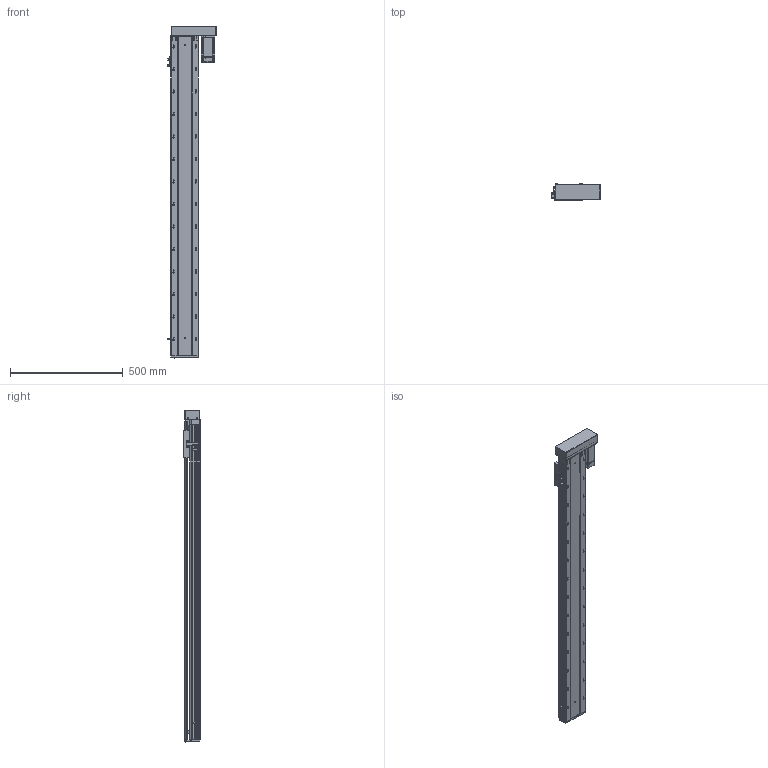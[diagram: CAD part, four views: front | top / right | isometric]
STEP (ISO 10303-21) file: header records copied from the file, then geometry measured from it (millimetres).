
FILE_DESCRIPTION (( 'STEP AP203' ), '1' );
FILE_NAME ('RY120-L2020-1000-RK.SLDASM_1200.step', '2021-03-12T07:30:04', ( '盈信电脑' ), ( '东莞市道滘镇水果街19号' ), 'SwSTEP 2.0', 'SolidWorks 2012', '' );
FILE_SCHEMA (( 'CONFIG_CONTROL_DESIGN' ));
Products named in the file (15): RY120-L2020-1000-RK.SLDASM_1200; RY120-400W萇儂傷-酘衵殏_450; RY120蛌殏萇儂欶; 15; 侂狟400W侜督萇儂; RY120酘殏萇儂假蚾啣; 滅袉蝶18-24; RY120外置感应片(140共用）; RY120转拆电端丝杆支撑座(20丝杆，7002轴承); RY120綴裔啣; 滅袉蝶18-10; 覜茼ん672; RY120臏賑輸(20蹟譫); RY120-1000-RK蛌殏倰第菁釱_1200; RY120-1000-RK蛌殏倰第奻裔啣_1200
Assembly tree (17 placements, depth 4):
  RY120-L2020-1000-RK.SLDASM_1200
    RY120-1000-RK蛌殏倰第菁釱_1200
    RY120-1000-RK蛌殏倰第奻裔啣_1200
    RY120臏賑輸(20蹟譫)
    RY120綴裔啣
    覜茼ん672  x3
    滅袉蝶18-10
    滅袉蝶18-24  x2
    RY120外置感应片(140共用）
    RY120转拆电端丝杆支撑座(20丝杆，7002轴承)
    RY120-400W萇儂傷-酘衵殏_450
      RY120酘殏萇儂假蚾啣
      侂狟400W侜督萇儂
        15
      RY120蛌殏萇儂欶
Bounding box: 214.2 x 73 x 1475 mm (x, y, z)
Volume: 3997651.2 mm3; surface area: 1502319.8 mm2
Topology: 16 solids, 16 shells, 2802 faces, 7787 edges, 4978 vertices
Faces by surface type: plane 1286, cylinder 1142, cone 269, bspline 105
Entity records: 95189 total; most frequent: CARTESIAN_POINT 27993, ORIENTED_EDGE 14190, DIRECTION 12875, EDGE_CURVE 7095, VERTEX_POINT 4646, AXIS2_PLACEMENT_3D 4357, VECTOR 4161, LINE 4161
